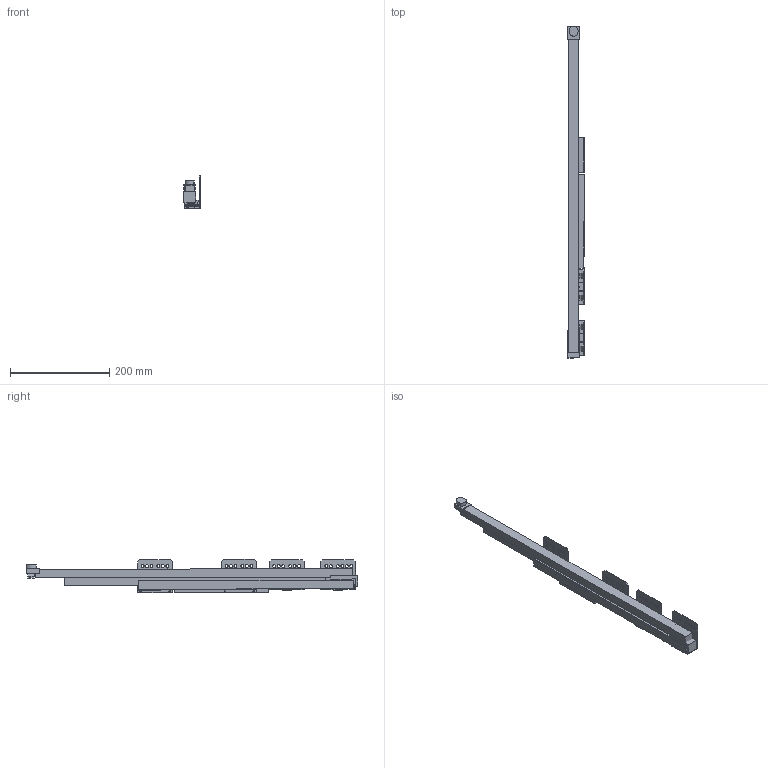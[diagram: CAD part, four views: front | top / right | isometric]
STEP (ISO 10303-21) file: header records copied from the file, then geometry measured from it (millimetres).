
FILE_DESCRIPTION (( 'STEP AP214' ), '1' );
FILE_NAME ('_IMOS Dynamic-XP VA 80kg NL650 RE Tipmatic.step', '2010-07-08T13:28:15', ( 'grass' ), ( '' ), 'SwSTEP 2.0', 'SolidWorks 2010', '' );
FILE_SCHEMA (( 'AUTOMOTIVE_DESIGN' ));
Length unit declared in the file: millimetre
Products named in the file (1): _IMOS Dynamic-XP VA 80kg NL650 RE Tipmatic
Bounding box: 33.14 x 668.02 x 66.67 mm (x, y, z)
Volume: 529675.5 mm3; surface area: 210413.6 mm2
Topology: 10 solids, 10 shells, 280 faces, 772 edges, 514 vertices
Faces by surface type: plane 193, cylinder 87
Entity records: 9171 total; most frequent: CARTESIAN_POINT 1567, ORIENTED_EDGE 1544, DIRECTION 1510, EDGE_CURVE 772, VECTOR 596, LINE 596, VERTEX_POINT 514, AXIS2_PLACEMENT_3D 457
